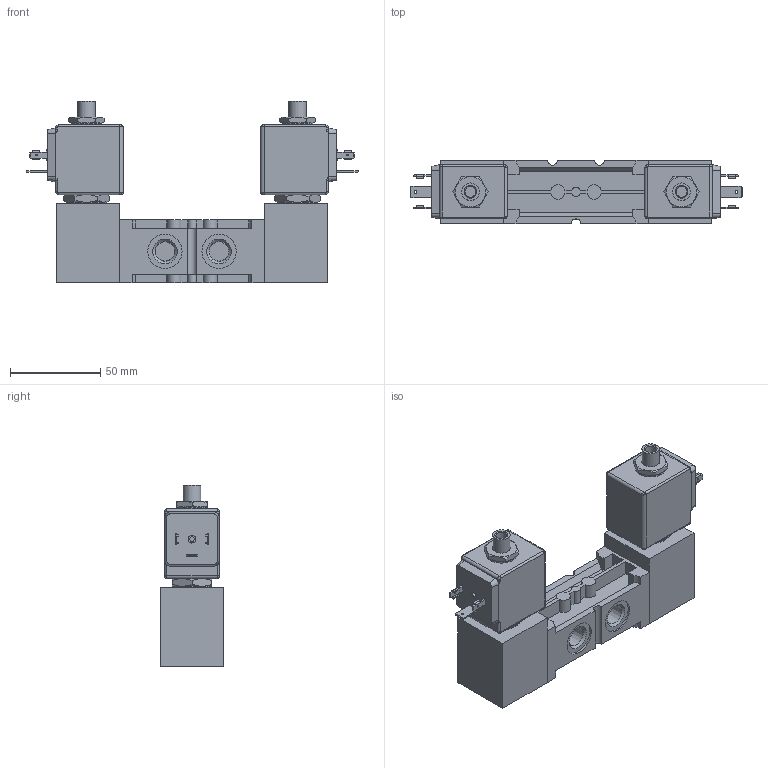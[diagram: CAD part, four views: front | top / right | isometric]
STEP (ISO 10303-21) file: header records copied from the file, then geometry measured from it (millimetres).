
FILE_DESCRIPTION(/* description */ (''),/* implementation_level */ '2;1');
FILE_NAME(/* name */ 'I:\Area Tecnica\Progetti\P118 (OIL&GAS)\DOCUMENTAZIONE\CATALOGO\VALVOLE INOX\LIBRERIA - SS VALV INOX\SS14520#####\SS145202#2#H.stp',/* time_stamp */ '2016-06-10T11:53:47+02:00',/* author */ ('Maniean1'),/* organization */ ('Pneumax S.p.A.'),/* preprocessor_version */ 'ST-DEVELOPER v15.2',/* originating_system */ 'Autodesk Inventor 2014',/* authorisation */ '');
FILE_SCHEMA (('AUTOMOTIVE_DESIGN { 1 0 10303 214 3 1 1 }'));
Length unit declared in the file: millimetre
Products named in the file (3): #8548; 214-C-MG##; #8550
Bounding box: 184 x 35 x 100.85 mm (x, y, z)
Volume: 267201 mm3; surface area: 50746 mm2
Topology: 5 solids, 5 shells, 429 faces, 1043 edges, 651 vertices
Faces by surface type: plane 272, cylinder 97, bspline 32, cone 28
Full cylindrical faces by diameter (mm): 1 x4, 1.5 x2, 2.5 x2, 4.4 x4, 6.1 x2, 9.7 x2, 10.719 x5, 16.9 x2, 19 x5, 20.5 x4, 21.8 x2
Entity records: 8516 total; most frequent: CARTESIAN_POINT 1937, DIRECTION 1326, ORIENTED_EDGE 1288, EDGE_CURVE 644, AXIS2_PLACEMENT_3D 446, LINE 434, VECTOR 434, VERTEX_POINT 432
